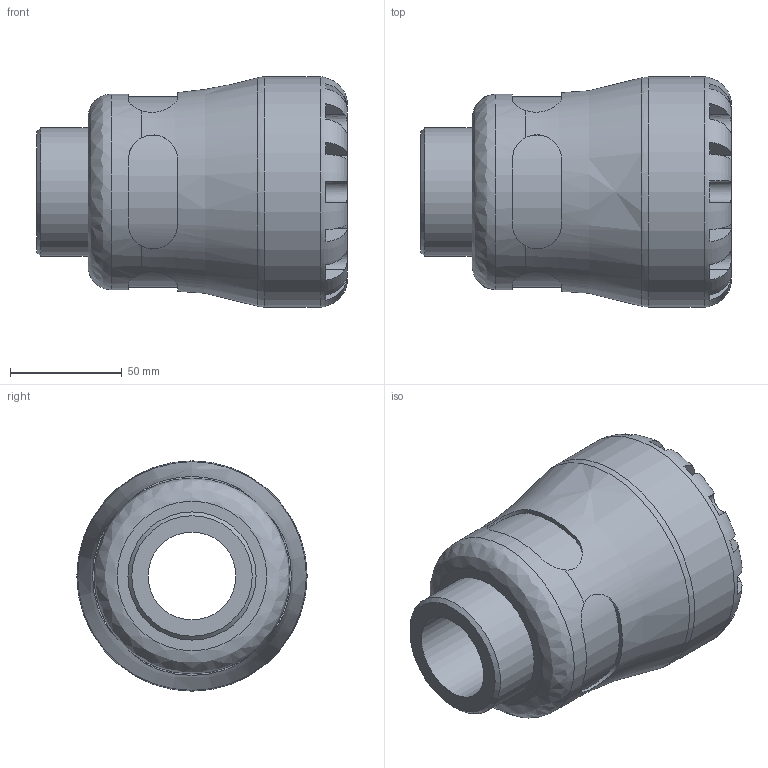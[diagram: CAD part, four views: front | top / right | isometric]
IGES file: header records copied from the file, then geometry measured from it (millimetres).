
Global section: file name: 107200063020_197200063020.ipt; native system: Autodesk Inventor 2015; preprocessor: unknown; author: KIM; date: 20170122.105004; units: millimetre
Bounding box: 139 x 103 x 103 mm (x, y, z)
Volume: 511979.1 mm3; surface area: 75258.8 mm2
Topology: 1 solids, 1 shells, 107 faces, 288 edges, 185 vertices
Faces by surface type: plane 68, revolution 23, cylinder 15, cone 1
Full cylindrical faces by diameter (mm): 57.296 x1, 87.55 x1, 103 x1
